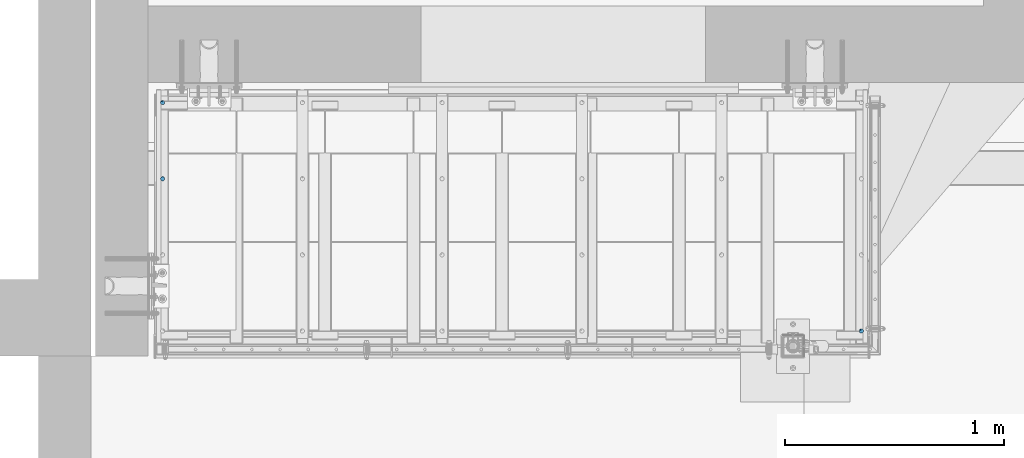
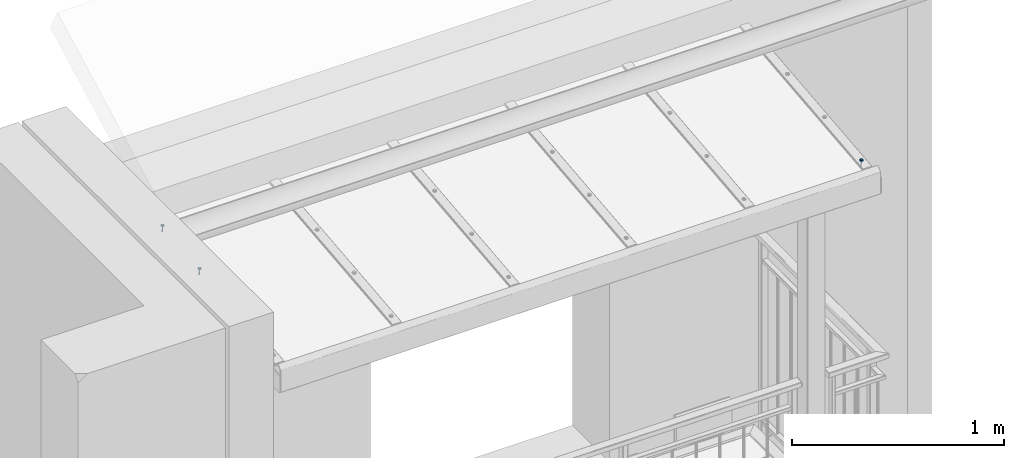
# One storey, part 73 of 162: 3 mechanical fasteners.
"""IFC2X3 building model written with IfcOpenShell, lengths in millimetres."""

from ifc_helpers import new_model, entity, si_unit, converted_unit, origin_with_axes, place, context, project, spatial, faceted_brep, element, save


model = new_model("IFC2X3")

# Units and contexts
model_context = context("Model", 3, precision=1e-09, world=origin_with_axes())
ifc_project = project(units=[si_unit("LENGTHUNIT", "METRE", prefix="MILLI"), si_unit("AREAUNIT", "SQUARE_METRE"), si_unit("VOLUMEUNIT", "CUBIC_METRE"), converted_unit("PLANEANGLEUNIT", "DEGREE", entity("IfcPlaneAngleMeasure", 0.01745329), si_unit("PLANEANGLEUNIT", "RADIAN"), dimensions=[0, 0, 0, 0, 0, 0, 0])], contexts=[model_context])

# Site, building, storey
site_placement = place(None, origin_with_axes())
site = spatial("IfcSite", under=ifc_project, at=site_placement, Name="Hermannstra?e 1a, 60318 Frankfurt", CompositionType="ELEMENT")
building_placement = place(site_placement, origin_with_axes())
building = spatial("IfcBuilding", under=site, at=building_placement, Name="Struktur 1", CompositionType="ELEMENT")
storey_placement = place(building_placement, origin_with_axes())
storey = spatial("IfcBuildingStorey", under=building, at=storey_placement, Name="Default Storey", CompositionType="ELEMENT", Elevation=0.0)

# Mechanical fasteners
mechanical_fastener_1_placement = place(None, origin_with_axes())
element("IfcMechanicalFastener", 1, at=mechanical_fastener_1_placement, inside=storey, ObjectType="-", NominalDiameter=6.0, NominalLength=40.0, context=model_context, shape_type="Brep", body=[
    faceted_brep([(5776.309364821, 1599.87027665, 17413.896072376), (5776.309364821, 1600.288390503, 17409.917984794), (5776.491904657, 1598.445185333, 17409.724256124), (5776.491904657, 1598.02707148, 17413.702343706), (5777.032509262, 1596.672813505, 17409.537972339), (5777.032509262, 1596.254699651, 17413.51605992), (5777.910403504, 1595.039386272, 17409.366292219), (5777.910403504, 1594.621272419, 17413.3443798), (5779.0918504, 1593.607675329, 17409.215813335), (5779.0918504, 1593.189561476, 17413.193900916), (5780.531447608, 1592.432700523, 17409.092318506), (5780.531447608, 1592.01458667, 17413.070406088), (5782.173872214, 1591.559615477, 17409.00055357), (5782.173872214, 1591.141501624, 17412.978641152), (5783.956006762, 1591.021972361, 17408.944045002), (5783.956006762, 1590.603858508, 17412.922132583), (5785.809364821, 1590.840432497, 17408.924964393), (5785.809364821, 1590.422318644, 17412.903051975), (5787.66272288, 1591.021972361, 17408.944045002), (5787.66272288, 1590.603858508, 17412.922132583), (5789.444857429, 1591.559615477, 17409.00055357), (5789.444857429, 1591.141501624, 17412.978641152), (5791.087282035, 1592.432700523, 17409.092318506), (5791.087282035, 1592.01458667, 17413.070406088), (5792.526879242, 1593.607675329, 17409.215813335), (5792.526879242, 1593.189561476, 17413.193900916), (5793.708326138, 1595.039386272, 17409.366292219), (5793.708326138, 1594.621272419, 17413.3443798), (5794.58622038, 1596.672813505, 17409.537972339), (5794.58622038, 1596.254699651, 17413.51605992), (5795.126824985, 1598.445185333, 17409.724256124), (5795.126824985, 1598.02707148, 17413.702343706), (5795.309364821, 1600.288390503, 17409.917984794), (5795.309364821, 1599.87027665, 17413.896072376), (5795.126824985, 1602.131595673, 17410.111713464), (5795.126824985, 1601.71348182, 17414.089801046), (5794.58622038, 1603.903967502, 17410.29799725), (5794.58622038, 1603.485853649, 17414.276084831), (5793.708326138, 1605.537394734, 17410.46967737), (5793.708326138, 1605.119280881, 17414.447764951), (5792.526879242, 1606.969105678, 17410.620156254), (5792.526879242, 1606.550991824, 17414.598243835), (5791.087282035, 1608.144080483, 17410.743651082), (5791.087282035, 1607.72596663, 17414.721738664), (5789.444857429, 1609.017165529, 17410.835416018), (5789.444857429, 1608.599051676, 17414.8135036), (5787.66272288, 1609.554808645, 17410.891924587), (5787.66272288, 1609.136694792, 17414.870012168), (5785.809364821, 1609.736348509, 17410.911005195), (5785.809364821, 1609.318234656, 17414.889092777), (5783.956006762, 1609.554808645, 17410.891924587), (5783.956006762, 1609.136694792, 17414.870012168), (5782.173872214, 1609.017165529, 17410.835416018), (5782.173872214, 1608.599051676, 17414.8135036), (5780.531447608, 1608.144080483, 17410.743651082), (5780.531447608, 1607.72596663, 17414.721738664), (5779.0918504, 1606.969105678, 17410.620156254), (5779.0918504, 1606.550991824, 17414.598243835), (5777.910403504, 1605.537394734, 17410.46967737), (5777.910403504, 1605.119280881, 17414.447764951), (5777.032509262, 1603.903967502, 17410.29799725), (5777.032509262, 1603.485853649, 17414.276084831), (5776.491904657, 1602.131595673, 17410.111713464), (5776.491904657, 1601.71348182, 17414.089801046)], [[[0, 1, 2, 3]], [[3, 2, 4, 5]], [[5, 4, 6, 7]], [[7, 6, 8, 9]], [[9, 8, 10, 11]], [[11, 10, 12, 13]], [[13, 12, 14, 15]], [[15, 14, 16, 17]], [[17, 16, 18, 19]], [[19, 18, 20, 21]], [[21, 20, 22, 23]], [[23, 22, 24, 25]], [[25, 24, 26, 27]], [[27, 26, 28, 29]], [[29, 28, 30, 31]], [[31, 30, 32, 33]], [[33, 32, 34, 35]], [[35, 34, 36, 37]], [[37, 36, 38, 39]], [[39, 38, 40, 41]], [[41, 40, 42, 43]], [[43, 42, 44, 45]], [[45, 44, 46, 47]], [[47, 46, 48, 49]], [[49, 48, 50, 51]], [[51, 50, 52, 53]], [[53, 52, 54, 55]], [[55, 54, 56, 57]], [[57, 56, 58, 59]], [[59, 58, 60, 61]], [[61, 60, 62, 63]], [[63, 62, 1, 0]], [[0, 3, 5, 7, 9, 11, 13, 15, 17, 19, 21, 23, 25, 27, 29, 31, 33, 35, 37, 39, 41, 43, 45, 47, 49, 51, 53, 55, 57, 59, 61, 63]], [[1, 62, 60, 58, 56, 54, 52, 50, 48, 46, 44, 42, 40, 38, 36, 34, 32, 30, 28, 26, 24, 22, 20, 18, 16, 14, 12, 10, 8, 6, 4, 2]]]),
    faceted_brep([(5790.594155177, 1597.122909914, 17413.607312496), (5790.594155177, 1596.704796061, 17417.585400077), (5785.809364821, 1593.957429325, 17417.296640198), (5785.809364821, 1594.375543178, 17413.318552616), (5781.024574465, 1596.704796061, 17417.585400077), (5781.024574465, 1597.122909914, 17413.607312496), (5781.024574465, 1602.199529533, 17418.162919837), (5781.024574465, 1602.617643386, 17414.184832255), (5785.809364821, 1604.946896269, 17418.451679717), (5785.809364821, 1605.365010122, 17414.473592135), (5790.594155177, 1602.199529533, 17418.162919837), (5790.594155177, 1602.617643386, 17414.184832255)], [[[0, 1, 2, 3]], [[3, 2, 4, 5]], [[5, 4, 6, 7]], [[7, 6, 8, 9]], [[9, 8, 10, 11]], [[11, 10, 1, 0]], [[4, 2, 1, 10, 8, 6]], [[0, 3, 5, 7, 9, 11]]]),
    faceted_brep([(5782.809364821, 1600.288390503, 17409.917984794), (5782.809364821, 1603.633301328, 17378.093284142), (5783.037726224, 1602.49154017, 17377.973280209), (5783.037726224, 1599.146629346, 17409.797980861), (5783.688044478, 1601.523601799, 17377.871545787), (5783.688044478, 1598.178690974, 17409.696246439), (5784.661314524, 1600.876846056, 17377.803569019), (5784.661314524, 1597.531935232, 17409.628269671), (5785.809364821, 1600.649735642, 17377.779698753), (5785.809364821, 1597.304824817, 17409.604399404), (5786.957415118, 1600.876846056, 17377.803569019), (5786.957415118, 1597.531935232, 17409.628269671), (5787.930685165, 1601.523601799, 17377.871545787), (5787.930685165, 1598.178690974, 17409.696246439), (5788.581003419, 1602.49154017, 17377.973280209), (5788.581003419, 1599.146629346, 17409.797980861), (5788.809364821, 1603.633301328, 17378.093284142), (5788.809364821, 1600.288390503, 17409.917984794), (5788.581003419, 1604.775062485, 17378.213288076), (5788.581003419, 1601.430151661, 17410.037988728), (5787.930685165, 1605.743000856, 17378.315022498), (5787.930685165, 1602.398090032, 17410.13972315), (5786.957415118, 1606.389756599, 17378.382999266), (5786.957415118, 1603.044845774, 17410.207699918), (5785.809364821, 1606.616867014, 17378.406869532), (5785.809364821, 1603.271956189, 17410.231570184), (5784.661314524, 1606.389756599, 17378.382999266), (5784.661314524, 1603.044845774, 17410.207699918), (5783.688044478, 1605.743000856, 17378.315022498), (5783.688044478, 1602.398090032, 17410.13972315), (5783.037726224, 1604.775062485, 17378.213288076), (5783.037726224, 1601.430151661, 17410.037988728)], [[[0, 1, 2, 3]], [[3, 2, 4, 5]], [[5, 4, 6, 7]], [[7, 6, 8, 9]], [[9, 8, 10, 11]], [[11, 10, 12, 13]], [[13, 12, 14, 15]], [[15, 14, 16, 17]], [[17, 16, 18, 19]], [[19, 18, 20, 21]], [[21, 20, 22, 23]], [[23, 22, 24, 25]], [[25, 24, 26, 27]], [[27, 26, 28, 29]], [[29, 28, 30, 31]], [[31, 30, 1, 0]], [[0, 3, 5, 7, 9, 11, 13, 15, 17, 19, 21, 23, 25, 27, 29, 31]], [[1, 30, 28, 26, 24, 22, 20, 18, 16, 14, 12, 10, 8, 6, 4, 2]]]),
    faceted_brep([(5782.809364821, 1603.633301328, 17378.093284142), (5782.809364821, 1604.051415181, 17374.115196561), (5783.037726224, 1602.909654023, 17373.995192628), (5783.037726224, 1602.49154017, 17377.973280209), (5783.688044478, 1601.941715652, 17373.893458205), (5783.688044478, 1601.523601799, 17377.871545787), (5784.661314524, 1601.294959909, 17373.825481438), (5784.661314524, 1600.876846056, 17377.803569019), (5785.809364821, 1601.067849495, 17373.801611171), (5785.809364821, 1600.649735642, 17377.779698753), (5786.957415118, 1601.294959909, 17373.825481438), (5786.957415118, 1600.876846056, 17377.803569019), (5787.930685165, 1601.941715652, 17373.893458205), (5787.930685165, 1601.523601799, 17377.871545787), (5788.581003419, 1602.909654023, 17373.995192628), (5788.581003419, 1602.49154017, 17377.973280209), (5788.809364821, 1604.051415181, 17374.115196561), (5788.809364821, 1603.633301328, 17378.093284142), (5788.581003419, 1605.193176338, 17374.235200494), (5788.581003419, 1604.775062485, 17378.213288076), (5787.930685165, 1606.161114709, 17374.336934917), (5787.930685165, 1605.743000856, 17378.315022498), (5786.957415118, 1606.807870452, 17374.404911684), (5786.957415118, 1606.389756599, 17378.382999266), (5785.809364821, 1607.034980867, 17374.428781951), (5785.809364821, 1606.616867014, 17378.406869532), (5784.661314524, 1606.807870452, 17374.404911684), (5784.661314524, 1606.389756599, 17378.382999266), (5783.688044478, 1606.161114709, 17374.336934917), (5783.688044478, 1605.743000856, 17378.315022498), (5783.037726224, 1605.193176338, 17374.235200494), (5783.037726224, 1604.775062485, 17378.213288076)], [[[0, 1, 2, 3]], [[3, 2, 4, 5]], [[5, 4, 6, 7]], [[7, 6, 8, 9]], [[9, 8, 10, 11]], [[11, 10, 12, 13]], [[13, 12, 14, 15]], [[15, 14, 16, 17]], [[17, 16, 18, 19]], [[19, 18, 20, 21]], [[21, 20, 22, 23]], [[23, 22, 24, 25]], [[25, 24, 26, 27]], [[27, 26, 28, 29]], [[29, 28, 30, 31]], [[31, 30, 1, 0]], [[0, 3, 5, 7, 9, 11, 13, 15, 17, 19, 21, 23, 25, 27, 29, 31]], [[1, 30, 28, 26, 24, 22, 20, 18, 16, 14, 12, 10, 8, 6, 4, 2]]]),
])
mechanical_fastener_2_placement = place(None, origin_with_axes())
element("IfcMechanicalFastener", 2, at=mechanical_fastener_2_placement, inside=storey, ObjectType="-", NominalDiameter=6.0, NominalLength=40.0, context=model_context, shape_type="Brep", body=[
    faceted_brep([(2600.309364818, 2296.453717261, 17483.087909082), (2600.309364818, 2296.035603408, 17487.065996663), (2600.126824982, 2294.192398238, 17486.872267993), (2600.126824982, 2294.610512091, 17482.894180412), (2599.586220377, 2292.420026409, 17486.685984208), (2599.586220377, 2292.838140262, 17482.707896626), (2598.708326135, 2290.786599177, 17486.514304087), (2598.708326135, 2291.20471303, 17482.536216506), (2597.526879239, 2289.354888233, 17486.363825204), (2597.526879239, 2289.773002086, 17482.385737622), (2596.087282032, 2288.179913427, 17486.240330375), (2596.087282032, 2288.598027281, 17482.262242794), (2594.444857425, 2287.306828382, 17486.148565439), (2594.444857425, 2287.724942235, 17482.170477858), (2592.662722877, 2286.769185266, 17486.092056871), (2592.662722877, 2287.187299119, 17482.113969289), (2590.809364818, 2286.587645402, 17486.072976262), (2590.809364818, 2287.005759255, 17482.094888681), (2588.956006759, 2286.769185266, 17486.092056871), (2588.956006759, 2287.187299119, 17482.113969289), (2587.17387221, 2287.306828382, 17486.148565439), (2587.17387221, 2287.724942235, 17482.170477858), (2585.531447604, 2288.179913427, 17486.240330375), (2585.531447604, 2288.598027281, 17482.262242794), (2584.091850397, 2289.354888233, 17486.363825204), (2584.091850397, 2289.773002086, 17482.385737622), (2582.910403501, 2290.786599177, 17486.514304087), (2582.910403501, 2291.20471303, 17482.536216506), (2582.032509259, 2292.420026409, 17486.685984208), (2582.032509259, 2292.838140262, 17482.707896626), (2581.491904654, 2294.192398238, 17486.872267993), (2581.491904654, 2294.610512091, 17482.894180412), (2581.309364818, 2296.035603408, 17487.065996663), (2581.309364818, 2296.453717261, 17483.087909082), (2581.491904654, 2297.878808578, 17487.259725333), (2581.491904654, 2298.296922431, 17483.281637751), (2582.032509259, 2299.651180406, 17487.446009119), (2582.032509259, 2300.069294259, 17483.467921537), (2582.910403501, 2301.284607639, 17487.617689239), (2582.910403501, 2301.702721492, 17483.639601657), (2584.091850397, 2302.716318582, 17487.768168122), (2584.091850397, 2303.134432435, 17483.790080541), (2585.531447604, 2303.891293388, 17487.891662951), (2585.531447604, 2304.309407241, 17483.913575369), (2587.17387221, 2304.764378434, 17487.983427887), (2587.17387221, 2305.182492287, 17484.005340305), (2588.956006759, 2305.30202155, 17488.039936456), (2588.956006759, 2305.720135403, 17484.061848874), (2590.809364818, 2305.483561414, 17488.059017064), (2590.809364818, 2305.901675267, 17484.080929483), (2592.662722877, 2305.30202155, 17488.039936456), (2592.662722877, 2305.720135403, 17484.061848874), (2594.444857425, 2304.764378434, 17487.983427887), (2594.444857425, 2305.182492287, 17484.005340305), (2596.087282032, 2303.891293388, 17487.891662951), (2596.087282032, 2304.309407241, 17483.913575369), (2597.526879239, 2302.716318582, 17487.768168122), (2597.526879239, 2303.134432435, 17483.790080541), (2598.708326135, 2301.284607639, 17487.617689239), (2598.708326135, 2301.702721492, 17483.639601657), (2599.586220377, 2299.651180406, 17487.446009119), (2599.586220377, 2300.069294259, 17483.467921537), (2600.126824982, 2297.878808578, 17487.259725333), (2600.126824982, 2298.296922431, 17483.281637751)], [[[0, 1, 2, 3]], [[3, 2, 4, 5]], [[5, 4, 6, 7]], [[7, 6, 8, 9]], [[9, 8, 10, 11]], [[11, 10, 12, 13]], [[13, 12, 14, 15]], [[15, 14, 16, 17]], [[17, 16, 18, 19]], [[19, 18, 20, 21]], [[21, 20, 22, 23]], [[23, 22, 24, 25]], [[25, 24, 26, 27]], [[27, 26, 28, 29]], [[29, 28, 30, 31]], [[31, 30, 32, 33]], [[33, 32, 34, 35]], [[35, 34, 36, 37]], [[37, 36, 38, 39]], [[39, 38, 40, 41]], [[41, 40, 42, 43]], [[43, 42, 44, 45]], [[45, 44, 46, 47]], [[47, 46, 48, 49]], [[49, 48, 50, 51]], [[51, 50, 52, 53]], [[53, 52, 54, 55]], [[55, 54, 56, 57]], [[57, 56, 58, 59]], [[59, 58, 60, 61]], [[61, 60, 62, 63]], [[63, 62, 1, 0]], [[2, 1, 62, 60, 58, 56, 54, 52, 50, 48, 46, 44, 42, 40, 38, 36, 34, 32, 30, 28, 26, 24, 22, 20, 18, 16, 14, 12, 10, 8, 6, 4]], [[63, 0, 3, 5, 7, 9, 11, 13, 15, 17, 19, 21, 23, 25, 27, 29, 31, 33, 35, 37, 39, 41, 43, 45, 47, 49, 51, 53, 55, 57, 59, 61]]]),
    faceted_brep([(2586.024574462, 2292.870122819, 17490.755324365), (2586.024574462, 2293.288236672, 17486.777236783), (2590.809364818, 2290.540869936, 17486.488476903), (2590.809364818, 2290.122756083, 17490.466564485), (2595.594155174, 2293.288236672, 17486.777236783), (2595.594155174, 2292.870122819, 17490.755324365), (2595.594155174, 2298.782970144, 17487.354756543), (2595.594155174, 2298.364856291, 17491.332844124), (2590.809364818, 2301.53033688, 17487.643516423), (2590.809364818, 2301.112223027, 17491.621604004), (2586.024574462, 2298.782970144, 17487.354756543), (2586.024574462, 2298.364856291, 17491.332844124)], [[[0, 1, 2, 3]], [[3, 2, 4, 5]], [[5, 4, 6, 7]], [[7, 6, 8, 9]], [[9, 8, 10, 11]], [[11, 10, 1, 0]], [[3, 5, 7, 9, 11, 0]], [[2, 1, 10, 8, 6, 4]]]),
    faceted_brep([(2593.809364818, 2299.798628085, 17451.26320843), (2593.809364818, 2296.453717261, 17483.087909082), (2593.581003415, 2295.311956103, 17482.967905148), (2593.581003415, 2298.656866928, 17451.143204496), (2592.930685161, 2294.344017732, 17482.866170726), (2592.930685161, 2297.688928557, 17451.041470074), (2591.957415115, 2293.69726199, 17482.798193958), (2591.957415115, 2297.042172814, 17450.973493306), (2590.809364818, 2293.470151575, 17482.774323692), (2590.809364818, 2296.815062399, 17450.94962304), (2589.661314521, 2293.69726199, 17482.798193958), (2589.661314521, 2297.042172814, 17450.973493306), (2588.688044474, 2294.344017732, 17482.866170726), (2588.688044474, 2297.688928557, 17451.041470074), (2588.03772622, 2295.311956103, 17482.967905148), (2588.03772622, 2298.656866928, 17451.143204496), (2587.809364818, 2296.453717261, 17483.087909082), (2587.809364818, 2299.798628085, 17451.26320843), (2588.03772622, 2297.595478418, 17483.207913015), (2588.03772622, 2300.940389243, 17451.383212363), (2588.688044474, 2298.56341679, 17483.309647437), (2588.688044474, 2301.908327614, 17451.484946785), (2589.661314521, 2299.210172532, 17483.377624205), (2589.661314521, 2302.555083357, 17451.552923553), (2590.809364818, 2299.437282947, 17483.401494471), (2590.809364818, 2302.782193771, 17451.57679382), (2591.957415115, 2299.210172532, 17483.377624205), (2591.957415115, 2302.555083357, 17451.552923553), (2592.930685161, 2298.56341679, 17483.309647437), (2592.930685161, 2301.908327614, 17451.484946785), (2593.581003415, 2297.595478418, 17483.207913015), (2593.581003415, 2300.940389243, 17451.383212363)], [[[0, 1, 2, 3]], [[3, 2, 4, 5]], [[5, 4, 6, 7]], [[7, 6, 8, 9]], [[9, 8, 10, 11]], [[11, 10, 12, 13]], [[13, 12, 14, 15]], [[15, 14, 16, 17]], [[17, 16, 18, 19]], [[19, 18, 20, 21]], [[21, 20, 22, 23]], [[23, 22, 24, 25]], [[25, 24, 26, 27]], [[27, 26, 28, 29]], [[29, 28, 30, 31]], [[31, 30, 1, 0]], [[2, 1, 30, 28, 26, 24, 22, 20, 18, 16, 14, 12, 10, 8, 6, 4]], [[31, 0, 3, 5, 7, 9, 11, 13, 15, 17, 19, 21, 23, 25, 27, 29]]]),
    faceted_brep([(2593.809364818, 2300.216741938, 17447.285120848), (2593.809364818, 2299.798628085, 17451.26320843), (2593.581003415, 2298.656866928, 17451.143204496), (2593.581003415, 2299.074980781, 17447.165116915), (2592.930685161, 2297.688928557, 17451.041470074), (2592.930685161, 2298.10704241, 17447.063382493), (2591.957415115, 2297.042172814, 17450.973493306), (2591.957415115, 2297.460286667, 17446.995405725), (2590.809364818, 2296.815062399, 17450.94962304), (2590.809364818, 2297.233176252, 17446.971535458), (2589.661314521, 2297.042172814, 17450.973493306), (2589.661314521, 2297.460286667, 17446.995405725), (2588.688044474, 2297.688928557, 17451.041470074), (2588.688044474, 2298.10704241, 17447.063382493), (2588.03772622, 2298.656866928, 17451.143204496), (2588.03772622, 2299.074980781, 17447.165116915), (2587.809364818, 2299.798628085, 17451.26320843), (2587.809364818, 2300.216741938, 17447.285120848), (2588.03772622, 2300.940389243, 17451.383212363), (2588.03772622, 2301.358503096, 17447.405124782), (2588.688044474, 2301.908327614, 17451.484946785), (2588.688044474, 2302.326441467, 17447.506859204), (2589.661314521, 2302.555083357, 17451.552923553), (2589.661314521, 2302.97319721, 17447.574835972), (2590.809364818, 2302.782193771, 17451.57679382), (2590.809364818, 2303.200307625, 17447.598706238), (2591.957415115, 2302.555083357, 17451.552923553), (2591.957415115, 2302.97319721, 17447.574835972), (2592.930685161, 2301.908327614, 17451.484946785), (2592.930685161, 2302.326441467, 17447.506859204), (2593.581003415, 2300.940389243, 17451.383212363), (2593.581003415, 2301.358503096, 17447.405124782)], [[[0, 1, 2, 3]], [[3, 2, 4, 5]], [[5, 4, 6, 7]], [[7, 6, 8, 9]], [[9, 8, 10, 11]], [[11, 10, 12, 13]], [[13, 12, 14, 15]], [[15, 14, 16, 17]], [[17, 16, 18, 19]], [[19, 18, 20, 21]], [[21, 20, 22, 23]], [[23, 22, 24, 25]], [[25, 24, 26, 27]], [[27, 26, 28, 29]], [[29, 28, 30, 31]], [[31, 30, 1, 0]], [[2, 1, 30, 28, 26, 24, 22, 20, 18, 16, 14, 12, 10, 8, 6, 4]], [[31, 0, 3, 5, 7, 9, 11, 13, 15, 17, 19, 21, 23, 25, 27, 29]]]),
])
mechanical_fastener_3_placement = place(None, origin_with_axes())
element("IfcMechanicalFastener", 3, at=mechanical_fastener_3_placement, inside=storey, ObjectType="-", NominalDiameter=6.0, NominalLength=40.0, context=model_context, shape_type="Brep", body=[
    faceted_brep([(2600.309364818, 2644.53638064, 17519.672871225), (2600.309364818, 2644.118266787, 17523.650958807), (2600.126824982, 2642.275061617, 17523.457230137), (2600.126824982, 2642.69317547, 17519.479142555), (2599.586220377, 2640.502689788, 17523.270946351), (2599.586220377, 2640.920803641, 17519.29285877), (2598.708326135, 2638.869262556, 17523.099266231), (2598.708326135, 2639.287376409, 17519.12117865), (2597.526879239, 2637.437551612, 17522.948787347), (2597.526879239, 2637.855665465, 17518.970699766), (2596.087282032, 2636.262576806, 17522.825292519), (2596.087282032, 2636.680690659, 17518.847204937), (2594.444857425, 2635.389491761, 17522.733527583), (2594.444857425, 2635.807605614, 17518.755440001), (2592.662722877, 2634.851848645, 17522.677019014), (2592.662722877, 2635.269962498, 17518.698931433), (2590.809364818, 2634.670308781, 17522.657938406), (2590.809364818, 2635.088422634, 17518.679850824), (2588.956006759, 2634.851848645, 17522.677019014), (2588.956006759, 2635.269962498, 17518.698931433), (2587.17387221, 2635.389491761, 17522.733527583), (2587.17387221, 2635.807605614, 17518.755440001), (2585.531447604, 2636.262576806, 17522.825292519), (2585.531447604, 2636.680690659, 17518.847204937), (2584.091850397, 2637.437551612, 17522.948787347), (2584.091850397, 2637.855665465, 17518.970699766), (2582.910403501, 2638.869262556, 17523.099266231), (2582.910403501, 2639.287376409, 17519.12117865), (2582.032509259, 2640.502689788, 17523.270946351), (2582.032509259, 2640.920803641, 17519.29285877), (2581.491904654, 2642.275061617, 17523.457230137), (2581.491904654, 2642.69317547, 17519.479142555), (2581.309364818, 2644.118266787, 17523.650958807), (2581.309364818, 2644.53638064, 17519.672871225), (2581.491904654, 2645.961471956, 17523.844687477), (2581.491904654, 2646.37958581, 17519.866599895), (2582.032509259, 2647.733843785, 17524.030971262), (2582.032509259, 2648.151957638, 17520.052883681), (2582.910403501, 2649.367271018, 17524.202651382), (2582.910403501, 2649.785384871, 17520.224563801), (2584.091850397, 2650.798981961, 17524.353130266), (2584.091850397, 2651.217095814, 17520.375042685), (2585.531447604, 2651.973956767, 17524.476625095), (2585.531447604, 2652.39207062, 17520.498537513), (2587.17387221, 2652.847041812, 17524.568390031), (2587.17387221, 2653.265155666, 17520.590302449), (2588.956006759, 2653.384684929, 17524.624898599), (2588.956006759, 2653.802798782, 17520.646811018), (2590.809364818, 2653.566224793, 17524.643979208), (2590.809364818, 2653.984338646, 17520.665891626), (2592.662722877, 2653.384684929, 17524.624898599), (2592.662722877, 2653.802798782, 17520.646811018), (2594.444857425, 2652.847041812, 17524.568390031), (2594.444857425, 2653.265155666, 17520.590302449), (2596.087282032, 2651.973956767, 17524.476625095), (2596.087282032, 2652.39207062, 17520.498537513), (2597.526879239, 2650.798981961, 17524.353130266), (2597.526879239, 2651.217095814, 17520.375042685), (2598.708326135, 2649.367271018, 17524.202651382), (2598.708326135, 2649.785384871, 17520.224563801), (2599.586220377, 2647.733843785, 17524.030971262), (2599.586220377, 2648.151957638, 17520.052883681), (2600.126824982, 2645.961471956, 17523.844687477), (2600.126824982, 2646.37958581, 17519.866599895)], [[[0, 1, 2, 3]], [[3, 2, 4, 5]], [[5, 4, 6, 7]], [[7, 6, 8, 9]], [[9, 8, 10, 11]], [[11, 10, 12, 13]], [[13, 12, 14, 15]], [[15, 14, 16, 17]], [[17, 16, 18, 19]], [[19, 18, 20, 21]], [[21, 20, 22, 23]], [[23, 22, 24, 25]], [[25, 24, 26, 27]], [[27, 26, 28, 29]], [[29, 28, 30, 31]], [[31, 30, 32, 33]], [[33, 32, 34, 35]], [[35, 34, 36, 37]], [[37, 36, 38, 39]], [[39, 38, 40, 41]], [[41, 40, 42, 43]], [[43, 42, 44, 45]], [[45, 44, 46, 47]], [[47, 46, 48, 49]], [[49, 48, 50, 51]], [[51, 50, 52, 53]], [[53, 52, 54, 55]], [[55, 54, 56, 57]], [[57, 56, 58, 59]], [[59, 58, 60, 61]], [[61, 60, 62, 63]], [[63, 62, 1, 0]], [[2, 1, 62, 60, 58, 56, 54, 52, 50, 48, 46, 44, 42, 40, 38, 36, 34, 32, 30, 28, 26, 24, 22, 20, 18, 16, 14, 12, 10, 8, 6, 4]], [[63, 0, 3, 5, 7, 9, 11, 13, 15, 17, 19, 21, 23, 25, 27, 29, 31, 33, 35, 37, 39, 41, 43, 45, 47, 49, 51, 53, 55, 57, 59, 61]]]),
    faceted_brep([(2586.024574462, 2640.952786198, 17527.340286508), (2586.024574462, 2641.370900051, 17523.362198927), (2590.809364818, 2638.623533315, 17523.073439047), (2590.809364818, 2638.205419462, 17527.051526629), (2595.594155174, 2641.370900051, 17523.362198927), (2595.594155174, 2640.952786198, 17527.340286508), (2595.594155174, 2646.865633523, 17523.939718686), (2595.594155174, 2646.44751967, 17527.917806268), (2590.809364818, 2649.613000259, 17524.228478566), (2590.809364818, 2649.194886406, 17528.206566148), (2586.024574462, 2646.865633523, 17523.939718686), (2586.024574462, 2646.44751967, 17527.917806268)], [[[0, 1, 2, 3]], [[3, 2, 4, 5]], [[5, 4, 6, 7]], [[7, 6, 8, 9]], [[9, 8, 10, 11]], [[11, 10, 1, 0]], [[3, 5, 7, 9, 11, 0]], [[2, 1, 10, 8, 6, 4]]]),
    faceted_brep([(2593.809364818, 2647.881291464, 17487.848170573), (2593.809364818, 2644.53638064, 17519.672871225), (2593.581003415, 2643.394619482, 17519.552867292), (2593.581003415, 2646.739530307, 17487.72816664), (2592.930685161, 2642.426681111, 17519.45113287), (2592.930685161, 2645.771591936, 17487.626432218), (2591.957415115, 2641.779925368, 17519.383156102), (2591.957415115, 2645.124836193, 17487.55845545), (2590.809364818, 2641.552814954, 17519.359285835), (2590.809364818, 2644.897725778, 17487.534585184), (2589.661314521, 2641.779925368, 17519.383156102), (2589.661314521, 2645.124836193, 17487.55845545), (2588.688044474, 2642.426681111, 17519.45113287), (2588.688044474, 2645.771591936, 17487.626432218), (2588.03772622, 2643.394619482, 17519.552867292), (2588.03772622, 2646.739530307, 17487.72816664), (2587.809364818, 2644.53638064, 17519.672871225), (2587.809364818, 2647.881291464, 17487.848170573), (2588.03772622, 2645.678141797, 17519.792875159), (2588.03772622, 2649.023052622, 17487.968174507), (2588.688044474, 2646.646080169, 17519.894609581), (2588.688044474, 2649.990990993, 17488.069908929), (2589.661314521, 2647.292835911, 17519.962586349), (2589.661314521, 2650.637746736, 17488.137885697), (2590.809364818, 2647.519946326, 17519.986456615), (2590.809364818, 2650.86485715, 17488.161755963), (2591.957415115, 2647.292835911, 17519.962586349), (2591.957415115, 2650.637746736, 17488.137885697), (2592.930685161, 2646.646080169, 17519.894609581), (2592.930685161, 2649.990990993, 17488.069908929), (2593.581003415, 2645.678141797, 17519.792875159), (2593.581003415, 2649.023052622, 17487.968174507)], [[[0, 1, 2, 3]], [[3, 2, 4, 5]], [[5, 4, 6, 7]], [[7, 6, 8, 9]], [[9, 8, 10, 11]], [[11, 10, 12, 13]], [[13, 12, 14, 15]], [[15, 14, 16, 17]], [[17, 16, 18, 19]], [[19, 18, 20, 21]], [[21, 20, 22, 23]], [[23, 22, 24, 25]], [[25, 24, 26, 27]], [[27, 26, 28, 29]], [[29, 28, 30, 31]], [[31, 30, 1, 0]], [[2, 1, 30, 28, 26, 24, 22, 20, 18, 16, 14, 12, 10, 8, 6, 4]], [[31, 0, 3, 5, 7, 9, 11, 13, 15, 17, 19, 21, 23, 25, 27, 29]]]),
    faceted_brep([(2593.809364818, 2648.299405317, 17483.870082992), (2593.809364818, 2647.881291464, 17487.848170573), (2593.581003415, 2646.739530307, 17487.72816664), (2593.581003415, 2647.15764416, 17483.750079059), (2592.930685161, 2645.771591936, 17487.626432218), (2592.930685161, 2646.189705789, 17483.648344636), (2591.957415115, 2645.124836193, 17487.55845545), (2591.957415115, 2645.542950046, 17483.580367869), (2590.809364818, 2644.897725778, 17487.534585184), (2590.809364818, 2645.315839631, 17483.556497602), (2589.661314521, 2645.124836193, 17487.55845545), (2589.661314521, 2645.542950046, 17483.580367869), (2588.688044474, 2645.771591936, 17487.626432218), (2588.688044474, 2646.189705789, 17483.648344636), (2588.03772622, 2646.739530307, 17487.72816664), (2588.03772622, 2647.15764416, 17483.750079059), (2587.809364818, 2647.881291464, 17487.848170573), (2587.809364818, 2648.299405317, 17483.870082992), (2588.03772622, 2649.023052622, 17487.968174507), (2588.03772622, 2649.441166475, 17483.990086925), (2588.688044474, 2649.990990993, 17488.069908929), (2588.688044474, 2650.409104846, 17484.091821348), (2589.661314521, 2650.637746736, 17488.137885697), (2589.661314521, 2651.055860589, 17484.159798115), (2590.809364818, 2650.86485715, 17488.161755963), (2590.809364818, 2651.282971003, 17484.183668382), (2591.957415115, 2650.637746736, 17488.137885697), (2591.957415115, 2651.055860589, 17484.159798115), (2592.930685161, 2649.990990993, 17488.069908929), (2592.930685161, 2650.409104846, 17484.091821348), (2593.581003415, 2649.023052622, 17487.968174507), (2593.581003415, 2649.441166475, 17483.990086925)], [[[0, 1, 2, 3]], [[3, 2, 4, 5]], [[5, 4, 6, 7]], [[7, 6, 8, 9]], [[9, 8, 10, 11]], [[11, 10, 12, 13]], [[13, 12, 14, 15]], [[15, 14, 16, 17]], [[17, 16, 18, 19]], [[19, 18, 20, 21]], [[21, 20, 22, 23]], [[23, 22, 24, 25]], [[25, 24, 26, 27]], [[27, 26, 28, 29]], [[29, 28, 30, 31]], [[31, 30, 1, 0]], [[2, 1, 30, 28, 26, 24, 22, 20, 18, 16, 14, 12, 10, 8, 6, 4]], [[31, 0, 3, 5, 7, 9, 11, 13, 15, 17, 19, 21, 23, 25, 27, 29]]]),
])

save(model, "model.ifc")
